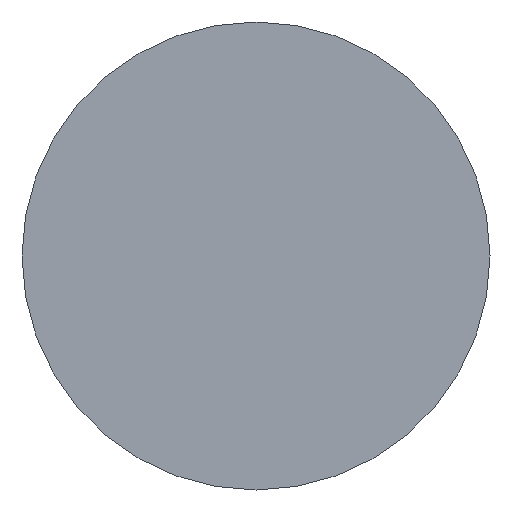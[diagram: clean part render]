
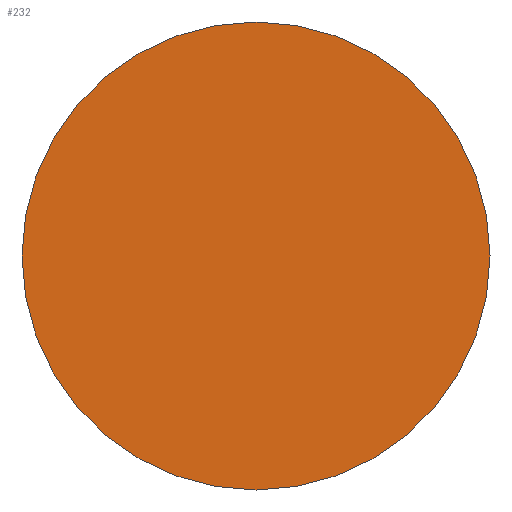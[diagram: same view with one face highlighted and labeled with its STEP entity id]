
A CAD part, left-side view. The second image highlights one B-rep face of the part: STEP entity #232.
In plain terms, the highlighted planar face has unit normal (-1, 0, 0).
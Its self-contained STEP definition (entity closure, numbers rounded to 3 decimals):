
#19 = DIRECTION ( 'NONE',  ( -1., 0., 0. ) ) ;
#25 = AXIS2_PLACEMENT_3D ( 'NONE', #204, #56, #39 ) ;
#39 = DIRECTION ( 'NONE',  ( 0., 1., 0. ) ) ;
#56 = DIRECTION ( 'NONE',  ( 1., 0., 0. ) ) ;
#73 = DIRECTION ( 'NONE',  ( 0., 1., 0. ) ) ;
#80 = DIRECTION ( 'NONE',  ( 0., -1., 0. ) ) ;
#84 = VERTEX_POINT ( 'NONE', #240 ) ;
#89 = CIRCLE ( 'NONE', #109, 11. ) ;
#102 = DIRECTION ( 'NONE',  ( 1., 0., 0. ) ) ;
#109 = AXIS2_PLACEMENT_3D ( 'NONE', #188, #102, #73 ) ;
#137 = AXIS2_PLACEMENT_3D ( 'NONE', #150, #19, #80 ) ;
#148 = FACE_OUTER_BOUND ( 'NONE', #213, .T. ) ;
#150 = CARTESIAN_POINT ( 'NONE',  ( 0., 0., 0. ) ) ;
#169 = PLANE ( 'NONE',  #137 ) ;
#181 = VERTEX_POINT ( 'NONE', #216 ) ;
#188 = CARTESIAN_POINT ( 'NONE',  ( 0., 0., 0. ) ) ;
#193 = ORIENTED_EDGE ( 'NONE', *, *, #210, .F. ) ;
#204 = CARTESIAN_POINT ( 'NONE',  ( 0., 0., 0. ) ) ;
#210 = EDGE_CURVE ( 'NONE', #84, #181, #89, .T. ) ;
#213 = EDGE_LOOP ( 'NONE', ( #270, #193 ) ) ;
#216 = CARTESIAN_POINT ( 'NONE',  ( 0., 11., 0. ) ) ;
#232 = ADVANCED_FACE ( 'NONE', ( #148 ), #169, .T. ) ;
#240 = CARTESIAN_POINT ( 'NONE',  ( 0., -11., 0. ) ) ;
#255 = CIRCLE ( 'NONE', #25, 11. ) ;
#266 = EDGE_CURVE ( 'NONE', #181, #84, #255, .T. ) ;
#270 = ORIENTED_EDGE ( 'NONE', *, *, #266, .F. ) ;
